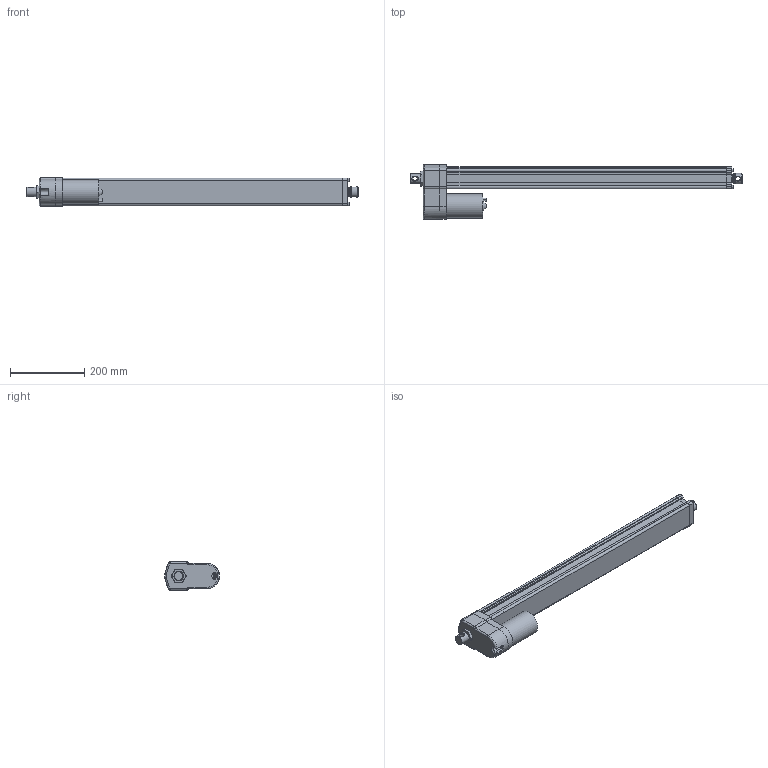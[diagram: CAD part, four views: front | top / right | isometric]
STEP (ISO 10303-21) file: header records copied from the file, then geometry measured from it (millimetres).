
FILE_DESCRIPTION( ( 'STEP AP203' ), '1' );
FILE_NAME( 'p:/temp/worker_340/temp/exporttempdir_6828_15_YA3os/format_0/DA12-21B65M60M0N-AMM.stp', '2020-04-12T13:25:43', ( 'License CC BY-ND 4.0' ), ( 'CADENAS' ), ' ', 'PARTsolutions', ' ' );
FILE_SCHEMA( ( 'CONFIG_CONTROL_DESIGN' ) );
Length unit declared in the file: millimetre
Products named in the file (8): DA12-21B65M60M0N-AMM; _ELECTRAK-LA14-DA12-21B65MM0N-60M-EU-REAR; _Electrak-10-EU-RA-D602700; _D602768eu; _ELECTRAK-LA14-DA12--MOTOR; _DA12-21B65M60M0NAMMtube; _ELECTRAK-LA14-DA12--60-PLATE; _ELECTRAK-LA14-DA12--6021B65MNM-ROD
Assembly tree (7 placements, depth 2):
  DA12-21B65M60M0N-AMM
    _ELECTRAK-LA14-DA12-21B65MM0N-60M-EU-REAR
    _Electrak-10-EU-RA-D602700
    _D602768eu
    _ELECTRAK-LA14-DA12--MOTOR
    _DA12-21B65M60M0NAMMtube
    _ELECTRAK-LA14-DA12--60-PLATE
    _ELECTRAK-LA14-DA12--6021B65MNM-ROD
Bounding box: 893.95 x 148 x 76.2 mm (x, y, z)
Volume: 2261477 mm3; surface area: 683389.1 mm2
Topology: 7 solids, 8 shells, 378 faces, 942 edges, 610 vertices
Faces by surface type: plane 183, cylinder 131, cone 46, torus 14, bspline 4
Full cylindrical faces by diameter (mm): 4 x2, 4.126 x1, 4.8 x6, 5 x5, 5.6 x4, 7.878 x4, 9.398 x1, 12.2 x2, 16 x1, 21.8 x1, 25.2 x1, 25.4 x1, 26.24 x1, 28.5 x1, 28.6 x2, 47.625 x1, 65.3 x1
Entity records: 11834 total; most frequent: CARTESIAN_POINT 2729, DIRECTION 1869, ORIENTED_EDGE 1744, EDGE_CURVE 872, AXIS2_PLACEMENT_3D 702, VERTEX_POINT 602, EDGE_LOOP 485, LINE 465
